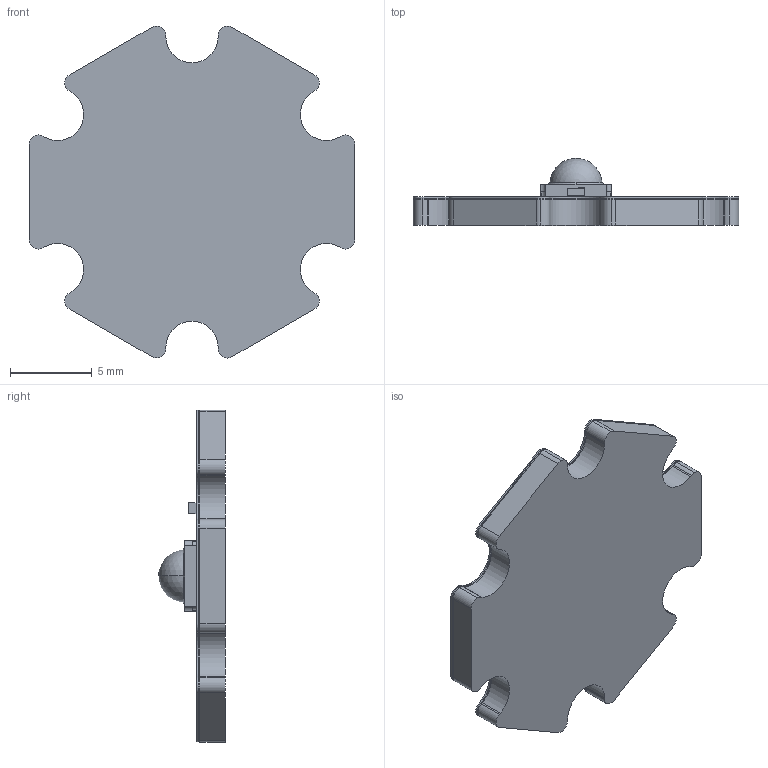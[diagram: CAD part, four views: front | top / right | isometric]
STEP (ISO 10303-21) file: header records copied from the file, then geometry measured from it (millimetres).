
FILE_DESCRIPTION (( 'STEP AP214' ), '1' );
FILE_NAME ('LZ1-10Rx02-P3_RevB.STEP', '2014-11-17T21:35:41', ( '' ), ( '' ), 'SwSTEP 2.0', 'SolidWorks 2014', '' );
FILE_SCHEMA (( 'AUTOMOTIVE_DESIGN' ));
Length unit declared in the file: millimetre
Products named in the file (1): LZ1-10Rx02-P3_RevB
Bounding box: 19.9 x 4.1 x 20.31 mm (x, y, z)
Volume: 522.8 mm3; surface area: 2122.7 mm2
Topology: 38 solids, 38 shells, 667 faces, 1764 edges, 1175 vertices
Faces by surface type: plane 463, cylinder 124, bspline 74, sphere 4, torus 2
Entity records: 32050 total; most frequent: CARTESIAN_POINT 7973, ORIENTED_EDGE 3512, DIRECTION 3060, EDGE_CURVE 1756, VECTOR 1344, LINE 1344, VERTEX_POINT 1171, AXIS2_PLACEMENT_3D 858
